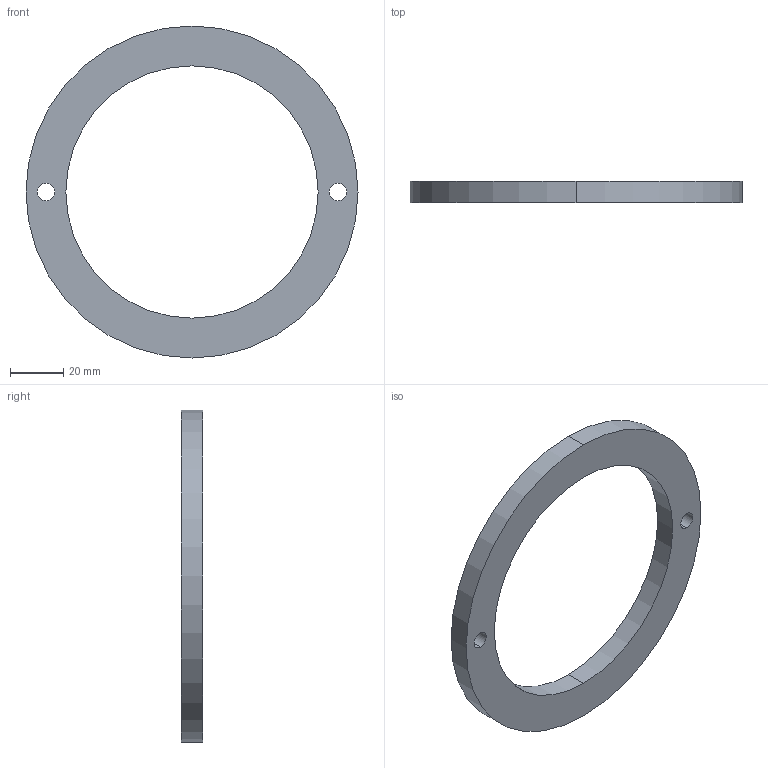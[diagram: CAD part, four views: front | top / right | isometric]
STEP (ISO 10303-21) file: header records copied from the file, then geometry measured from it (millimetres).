
FILE_DESCRIPTION (( 'STEP AP214' ), '1' );
FILE_NAME ('BRDCO-125.STEP', '2020-02-05T09:09:22', ( 'August' ), ( '' ), 'SwSTEP 2.0', 'SolidWorks 2018', '' );
FILE_SCHEMA (( 'AUTOMOTIVE_DESIGN' ));
Length unit declared in the file: millimetre
Products named in the file (1): BRDCO-125
Bounding box: 125 x 8 x 125 mm (x, y, z)
Volume: 40938.1 mm3; surface area: 16090.5 mm2
Topology: 1 solids, 1 shells, 10 faces, 24 edges, 16 vertices
Faces by surface type: cylinder 8, plane 2
Entity records: 350 total; most frequent: DIRECTION 62, CARTESIAN_POINT 51, ORIENTED_EDGE 48, AXIS2_PLACEMENT_3D 27, EDGE_CURVE 24, VERTEX_POINT 16, EDGE_LOOP 16, CIRCLE 16
